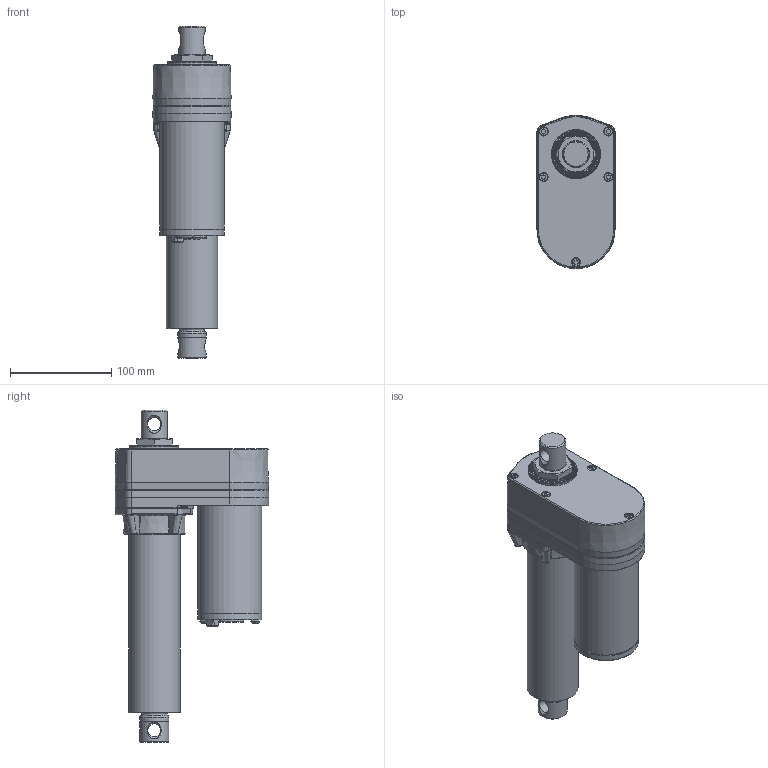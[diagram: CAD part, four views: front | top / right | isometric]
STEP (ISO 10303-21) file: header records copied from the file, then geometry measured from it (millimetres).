
FILE_DESCRIPTION (( 'STEP AP203' ), '1' );
FILE_NAME ('ID10II-B-Standard -102.STEP', '2014-06-10T03:55:28', ( '' ), ( '' ), 'SwSTEP 2.0', 'SolidWorks 2013', '' );
FILE_SCHEMA (( 'CONFIG_CONTROL_DESIGN' ));
Length unit declared in the file: millimetre
Products named in the file (3): ID10II-B-Standard -102-1; ID10II-B-Standard -102-2; ID10II-B-Standard -102
Assembly tree (2 placements, depth 2):
  ID10II-B-Standard -102
    ID10II-B-Standard -102-1
    ID10II-B-Standard -102-2
Bounding box: 77.15 x 151.65 x 327.8 mm (x, y, z)
Volume: 1454114.6 mm3; surface area: 137889.5 mm2
Topology: 2 solids, 2 shells, 827 faces, 2167 edges, 1370 vertices
Faces by surface type: plane 513, cylinder 135, bspline 100, torus 43, cone 36
Full cylindrical faces by diameter (mm): 8.5 x7, 9 x5, 13 x2, 26 x1, 28 x2, 28.1 x1, 28.6 x4, 28.62 x1, 48.2 x1, 50.8 x1, 63.2 x1, 63.5 x2
Entity records: 29219 total; most frequent: CARTESIAN_POINT 11160, ORIENTED_EDGE 4182, DIRECTION 3170, EDGE_CURVE 2091, VERTEX_POINT 1355, AXIS2_PLACEMENT_3D 1147, EDGE_LOOP 918, VECTOR 876
